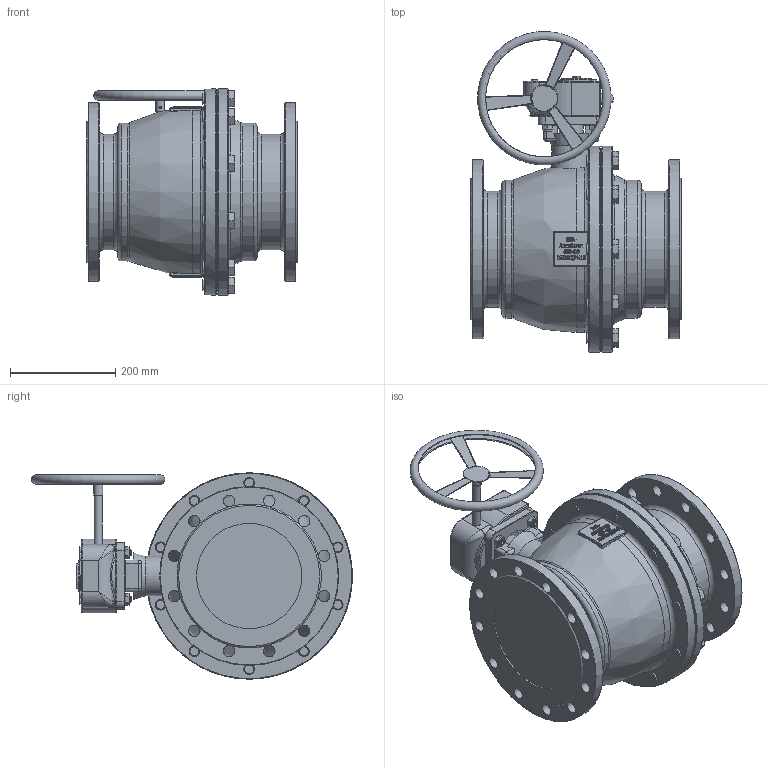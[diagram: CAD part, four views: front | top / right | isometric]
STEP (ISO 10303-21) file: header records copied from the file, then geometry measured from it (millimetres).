
FILE_DESCRIPTION((''),'2;1');
FILE_NAME('K:\Inventor\1 Artikel\12) Flanschen-Kugelhähne\12a) manuell\Econosto\460-GS, PN16, 7249\460-GS, DN200\460-GS, DN200, 3D\460-GS, DN200, PN16, X61, P250, 3D.stp','2019-11-11T14:57:03',('claudia'),(''),'Autodesk Inventor 2013','Autodesk Inventor 2013','');
FILE_SCHEMA(('AUTOMOTIVE_DESIGN { 1 0 10303 214 1 1 1 1 }'));
Length unit declared in the file: millimetre
Products named in the file (1): Bauteil47
Bounding box: 400 x 609.15 x 392 mm (x, y, z)
Volume: 29111384 mm3; surface area: 1094982.8 mm2
Topology: 9 solids, 9 shells, 1909 faces, 4963 edges, 3216 vertices
Faces by surface type: plane 896, bspline 614, cylinder 241, cone 103, torus 43, sphere 12
Full cylindrical faces by diameter (mm): 4 x2, 5 x1, 12 x16, 14 x4, 15 x1, 17 x1, 18.647 x10, 20 x22, 21 x10, 22 x24, 27.7 x10, 45 x1, 58 x1, 60 x2, 75 x1, 80 x1, 200 x2, 220 x2, 262 x2, 331.076 x1, 340 x2, 392 x2
Entity records: 65876 total; most frequent: CARTESIAN_POINT 22638, ORIENTED_EDGE 9350, DIRECTION 6524, EDGE_CURVE 4675, VERTEX_POINT 3127, VECTOR 2558, LINE 2558, EDGE_LOOP 2346
